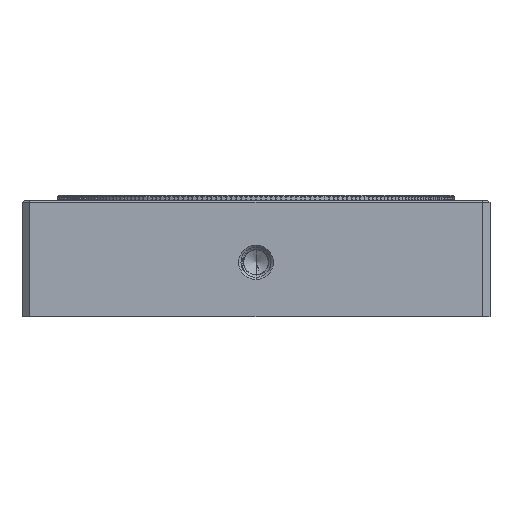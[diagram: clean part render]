
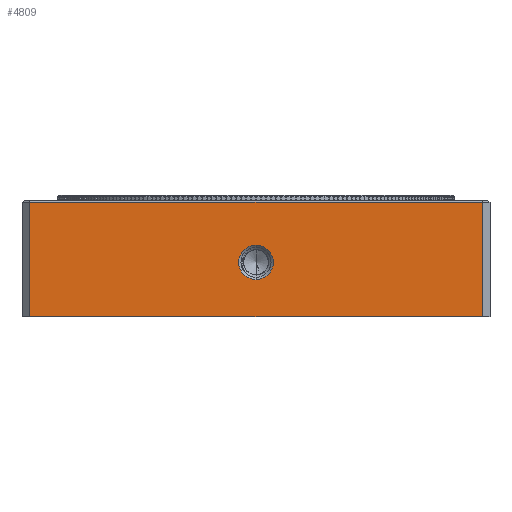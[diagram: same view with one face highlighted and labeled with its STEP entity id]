
A CAD part, front view. The second image highlights one B-rep face of the part: STEP entity #4809.
In plain terms, the highlighted planar face has unit normal (0, -1, 0).
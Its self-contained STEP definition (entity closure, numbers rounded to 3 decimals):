
#293=DIRECTION('',(-1.,0.,0.));
#294=VECTOR('',#293,60.23);
#295=CARTESIAN_POINT('',(61.23,0.,-15.494));
#296=LINE('',#295,#294);
#743=CARTESIAN_POINT('',(31.115,0.,-8.255));
#744=DIRECTION('',(0.,1.,0.));
#745=DIRECTION('',(0.,0.,1.));
#746=AXIS2_PLACEMENT_3D('',#743,#744,#745);
#748=CARTESIAN_POINT('',(31.115,0.,-8.255));
#749=DIRECTION('',(0.,1.,0.));
#750=DIRECTION('',(0.,0.,-1.));
#751=AXIS2_PLACEMENT_3D('',#748,#749,#750);
#753=DIRECTION('',(1.,0.,0.));
#754=VECTOR('',#753,60.23);
#755=CARTESIAN_POINT('',(1.,0.,-0.3));
#756=LINE('',#755,#754);
#757=DIRECTION('',(0.,0.,1.));
#758=VECTOR('',#757,15.194);
#759=CARTESIAN_POINT('',(61.23,0.,-15.494));
#760=LINE('',#759,#758);
#761=DIRECTION('',(0.,0.,1.));
#762=VECTOR('',#761,15.194);
#763=CARTESIAN_POINT('',(1.,0.,-15.494));
#764=LINE('',#763,#762);
#3526=CARTESIAN_POINT('',(31.115,0.,-5.955));
#3527=CARTESIAN_POINT('',(31.115,0.,-10.555));
#3528=VERTEX_POINT('',#3526);
#3529=VERTEX_POINT('',#3527);
#3692=CARTESIAN_POINT('',(1.,0.,-15.494));
#3694=VERTEX_POINT('',#3692);
#3697=CARTESIAN_POINT('',(61.23,0.,-15.494));
#3699=VERTEX_POINT('',#3697);
#3748=CARTESIAN_POINT('',(1.,0.,-0.3));
#3749=VERTEX_POINT('',#3748);
#3752=CARTESIAN_POINT('',(61.23,0.,-0.3));
#3753=VERTEX_POINT('',#3752);
#4790=CARTESIAN_POINT('',(31.115,0.,0.));
#4791=DIRECTION('',(0.,1.,0.));
#4792=DIRECTION('',(0.,0.,1.));
#4793=AXIS2_PLACEMENT_3D('',#4790,#4791,#4792);
#4794=PLANE('',#4793);
#4796=ORIENTED_EDGE('',*,*,#4795,.T.);
#4797=ORIENTED_EDGE('',*,*,#4785,.F.);
#4798=ORIENTED_EDGE('',*,*,#4059,.T.);
#4800=ORIENTED_EDGE('',*,*,#4799,.T.);
#4801=EDGE_LOOP('',(#4796,#4797,#4798,#4800));
#4802=FACE_OUTER_BOUND('',#4801,.F.);
#4804=ORIENTED_EDGE('',*,*,#4803,.F.);
#4806=ORIENTED_EDGE('',*,*,#4805,.F.);
#4807=EDGE_LOOP('',(#4804,#4806));
#4808=FACE_BOUND('',#4807,.F.);
#4809=ADVANCED_FACE('',(#4802,#4808),#4794,.F.);
#747=CIRCLE('',#746,2.3);
#752=CIRCLE('',#751,2.3);
#4059=EDGE_CURVE('',#3699,#3694,#296,.T.);
#4785=EDGE_CURVE('',#3699,#3753,#760,.T.);
#4795=EDGE_CURVE('',#3749,#3753,#756,.T.);
#4799=EDGE_CURVE('',#3694,#3749,#764,.T.);
#4803=EDGE_CURVE('',#3528,#3529,#747,.T.);
#4805=EDGE_CURVE('',#3529,#3528,#752,.T.);
